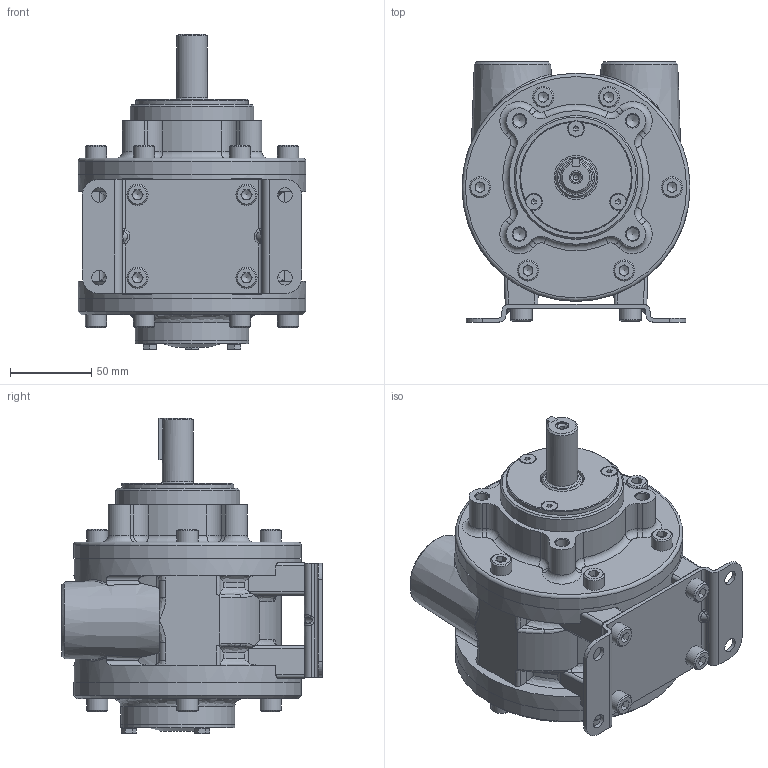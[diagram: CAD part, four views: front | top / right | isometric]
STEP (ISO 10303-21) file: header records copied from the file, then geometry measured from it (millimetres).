
FILE_DESCRIPTION (( 'STEP AP214' ), '1' );
FILE_NAME ('VA8J Defeature.STEP', '2022-06-14T09:14:13', ( '' ), ( '' ), 'SwSTEP 2.0', 'SolidWorks 2020', '' );
FILE_SCHEMA (( 'AUTOMOTIVE_DESIGN' ));
Length unit declared in the file: millimetre
Products named in the file (1): VA8J Defeature
Bounding box: 140 x 160 x 193.9 mm (x, y, z)
Volume: 1739352.4 mm3; surface area: 136875.6 mm2
Topology: 1 solids, 1 shells, 721 faces, 1796 edges, 1100 vertices
Faces by surface type: plane 390, cylinder 155, cone 83, bspline 76, torus 17
Full cylindrical faces by diameter (mm): 3.4 x1, 7.937 x2, 7.938 x2, 8 x4, 9 x4, 9.64 x3, 13 x16, 19.06 x1, 25 x1, 27 x1, 30.291 x2, 69 x1, 69.8 x1, 70 x2, 76.1 x1, 138 x2, 140 x3
Entity records: 29368 total; most frequent: CARTESIAN_POINT 10489, ORIENTED_EDGE 3244, DIRECTION 3084, EDGE_CURVE 1622, AXIS2_PLACEMENT_3D 1130, VERTEX_POINT 1040, EDGE_LOOP 872, VECTOR 824
